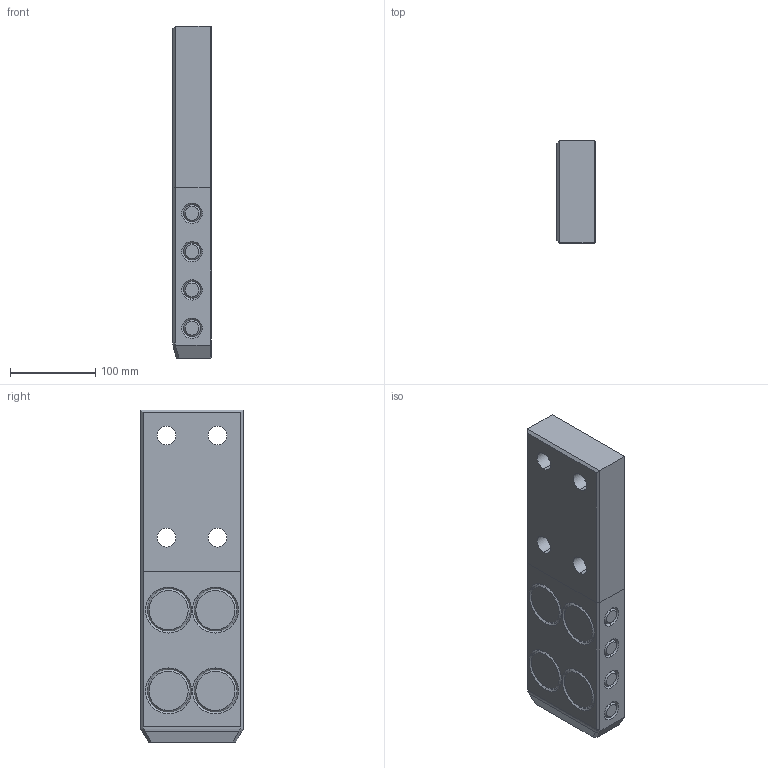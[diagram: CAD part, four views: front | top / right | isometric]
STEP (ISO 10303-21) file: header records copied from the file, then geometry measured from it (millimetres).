
FILE_DESCRIPTION((''),'2;1');
FILE_NAME('','2010-08-30T18:27:24+09:00',('misumi'),(''),'M/STEP i/f 1R2-14','CADmeister v5.1','');
FILE_SCHEMA(('AUTOMOTIVE_DESIGN'));
Length unit declared in the file: millimetre
Products named in the file (1): OG120-390
Bounding box: 45 x 120 x 390 mm (x, y, z)
Volume: 2015990.9 mm3; surface area: 148446.8 mm2
Topology: 1 solids, 1 shells, 101 faces, 218 edges, 132 vertices
Faces by surface type: cone 48, plane 38, cylinder 11, bspline 4
Entity records: 3794 total; most frequent: CARTESIAN_POINT 1508, DIRECTION 460, ORIENTED_EDGE 436, EDGE_CURVE 218, AXIS2_PLACEMENT_3D 174, VERTEX_POINT 132, EDGE_LOOP 122, LINE 112
